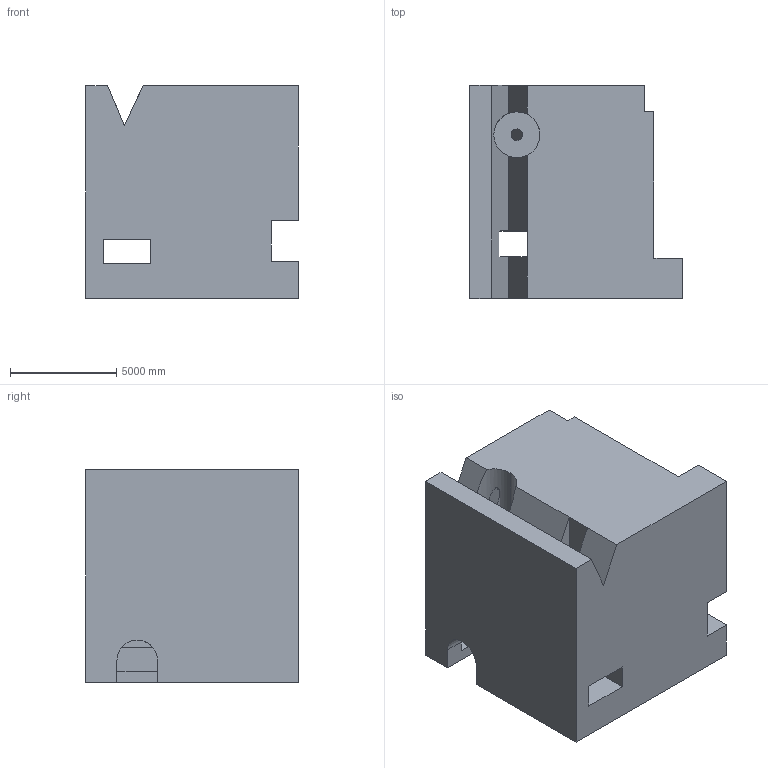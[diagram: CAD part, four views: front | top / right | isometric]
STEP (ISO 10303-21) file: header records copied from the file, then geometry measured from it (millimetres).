
FILE_DESCRIPTION (( 'STEP AP203' ), '1' );
FILE_NAME ('1837.STEP', '2022-08-26T13:29:06', ( 'user' ), ( '' ), 'SwSTEP 2.0', 'SolidWorks 2021', '' );
FILE_SCHEMA (( 'CONFIG_CONTROL_DESIGN' ));
Length unit declared in the file: centimetre
Products named in the file (1): 1837
Bounding box: 10000 x 10000 x 10000 mm (x, y, z)
Volume: 781076250143.6 mm3; surface area: 720173177 mm2
Topology: 1 solids, 1 shells, 51 faces, 151 edges, 100 vertices
Faces by surface type: plane 45, cylinder 6
Entity records: 1774 total; most frequent: CARTESIAN_POINT 321, ORIENTED_EDGE 302, DIRECTION 261, EDGE_CURVE 151, LINE 133, VECTOR 133, VERTEX_POINT 100, AXIS2_PLACEMENT_3D 64
